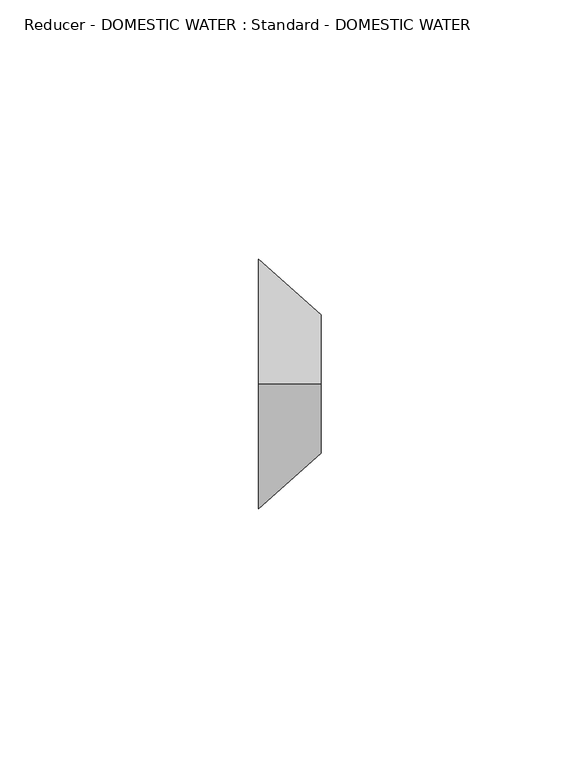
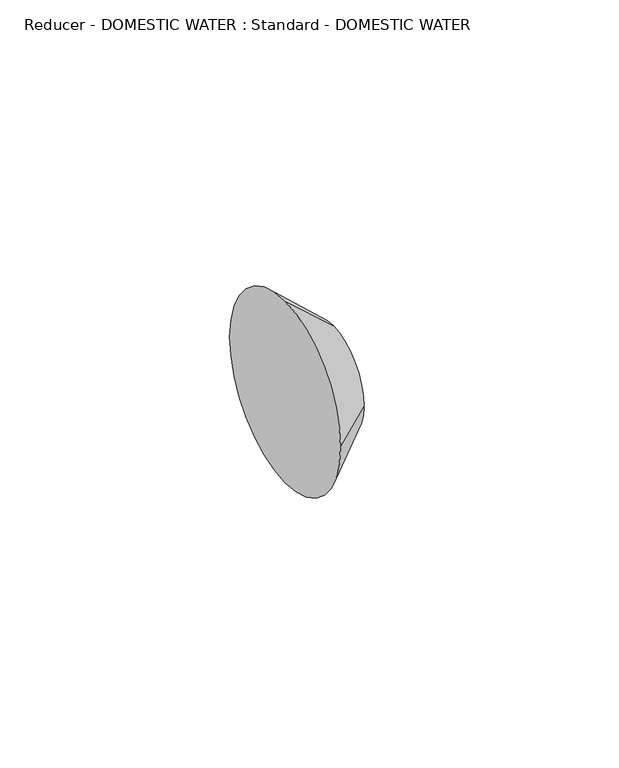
"""IFC4 building model written with IfcOpenShell, lengths in millimetres: pipe fitting geometry, Reducer - DOMESTIC WATER : Standard - DOMESTIC WATER."""

from ifc_helpers import new_model, si_unit, frame, origin, place, context, project, spatial, polyline, circle_curve, source, transform, mapped, element, save
from ifc_brep_helpers import plane_surface, revolved_surface, advanced_brep


def reducer_domestic_water_standard_domestic_water_e454aa41(model_context):
    return source(origin(), model_context, "Body", "AdvancedBrep", [
        advanced_brep(
        [(12.065, 0.0, 13.335), (12.065, -13.335, 0.0), (12.065, 0.0, -13.335), (12.065, 13.335, 0.0), (0.0, 0.0, 24.13), (0.0, 24.13, 0.0), (0.0, 0.0, -24.13), (0.0, -24.13, 0.0)],
        [
            (0, 1, circle_curve(frame((12.065, 0.0, 0.0), z_axis=(1.0, 0.0, 0.0), x_axis=(0.0, -1.0, 0.0)), 13.335)),
            (1, 2, circle_curve(frame((12.065, 0.0, 0.0), z_axis=(1.0, 0.0, 0.0), x_axis=(0.0, 0.0, -1.0)), 13.335)),
            (2, 3, circle_curve(frame((12.065, 0.0, 0.0), z_axis=(1.0, 0.0, 0.0), x_axis=(0.0, 1.0, 0.0)), 13.335)),
            (3, 0, circle_curve(frame((12.065, 0.0, 0.0), z_axis=(1.0, 0.0, 0.0), x_axis=(0.0, 0.0, 1.0)), 13.335)),
            (4, 5, circle_curve(frame((0.0, 0.0, 0.0), z_axis=(-1.0, 0.0, 0.0), x_axis=(0.0, 0.0, 1.0)), 24.13)),
            (5, 6, circle_curve(frame((0.0, 0.0, 0.0), z_axis=(-1.0, 0.0, 0.0), x_axis=(0.0, 1.0, 0.0)), 24.13)),
            (6, 7, circle_curve(frame((0.0, 0.0, 0.0), z_axis=(-1.0, 0.0, 0.0), x_axis=(0.0, 0.0, -1.0)), 24.13)),
            (7, 4, circle_curve(frame((0.0, 0.0, 0.0), z_axis=(-1.0, 0.0, 0.0), x_axis=(0.0, -1.0, 0.0)), 24.13)),
            (4, 0),
            (3, 5),
            (2, 6),
            (1, 7),
        ],
        [
            plane_surface(frame((12.065, 0.0, 0.0), z_axis=(1.0, 0.0, 0.0), x_axis=(0.0, 1.0, 0.0))),
            plane_surface(frame((0.0, 0.0, 0.0), z_axis=(-1.0, 0.0, 0.0), x_axis=(0.0, 1.0, 0.0))),
            revolved_surface(polyline([(12.065, 0.0, 13.334999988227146), (0.0, 0.0, 24.13)]), (26.9688235, 0.0, 0.0), (-1.0, 0.0, 0.0)),
            revolved_surface(polyline([(12.065, 13.334999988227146, 0.0), (0.0, 24.13, 0.0)]), (26.9688235, 0.0, 0.0), (-1.0, 0.0, 0.0)),
            revolved_surface(polyline([(12.065, 0.0, -13.334999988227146), (0.0, 0.0, -24.13)]), (26.9688235, 0.0, 0.0), (-1.0, 0.0, 0.0)),
            revolved_surface(polyline([(12.065, -13.334999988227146, 0.0), (0.0, -24.13, 0.0)]), (26.9688235, 0.0, 0.0), (-1.0, 0.0, 0.0)),
        ],
        [
            (0, [[1, 2, 3, 4]]),
            (1, [[5, 6, 7, 8]]),
            (2, [[9, -4, 10, -5]]),
            (3, [[-10, -3, 11, -6]]),
            (4, [[-11, -2, 12, -7]]),
            (5, [[-12, -1, -9, -8]]),
        ],
    ),
        advanced_brep(
        [(12.065, 0.0, 13.335), (12.065, -13.335, 0.0), (12.065, 0.0, -13.335), (12.065, 13.335, 0.0), (0.0, 0.0, 24.13), (0.0, 24.13, 0.0), (0.0, 0.0, -24.13), (0.0, -24.13, 0.0)],
        [
            (0, 1, circle_curve(frame((12.065, 0.0, 0.0), z_axis=(1.0, 0.0, 0.0), x_axis=(0.0, -1.0, 0.0)), 13.335)),
            (1, 2, circle_curve(frame((12.065, 0.0, 0.0), z_axis=(1.0, 0.0, -1.039076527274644e-12), x_axis=(-1.039135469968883e-12, 0.0, -1.0)), 13.335)),
            (2, 3, circle_curve(frame((12.065, 0.0, 0.0), z_axis=(1.0, 0.0, 0.0), x_axis=(0.0, 1.0, 0.0)), 13.335)),
            (3, 0, circle_curve(frame((12.065, 0.0, 0.0), z_axis=(1.0, 0.0, 0.0), x_axis=(0.0, 0.0, 1.0)), 13.335)),
            (4, 5, circle_curve(frame((0.0, 0.0, 0.0), z_axis=(-1.0, 0.0, 0.0), x_axis=(0.0, 0.0, 1.0)), 24.13)),
            (5, 6, circle_curve(frame((0.0, 0.0, 0.0), z_axis=(-1.0, 0.0, 0.0), x_axis=(0.0, 1.0, 0.0)), 24.13)),
            (6, 7, circle_curve(frame((0.0, 0.0, 0.0), z_axis=(-1.0, 0.0, 1.039076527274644e-12), x_axis=(-1.039135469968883e-12, 0.0, -1.0)), 24.13)),
            (7, 4, circle_curve(frame((0.0, 0.0, 0.0), z_axis=(-1.0, 0.0, 0.0), x_axis=(0.0, -1.0, 0.0)), 24.13)),
            (4, 0),
            (3, 5),
            (2, 6),
            (1, 7),
        ],
        [
            plane_surface(frame((12.065, 0.0, 0.0), z_axis=(1.0, 0.0, 0.0), x_axis=(0.0, 1.0, 0.0))),
            plane_surface(frame((0.0, 0.0, 0.0), z_axis=(-1.0, 0.0, 0.0), x_axis=(0.0, 1.0, 0.0))),
            revolved_surface(polyline([(12.065, 0.0, 13.334999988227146), (0.0, 0.0, 24.13)]), (26.9688235, 0.0, 0.0), (-1.0, 0.0, 0.0)),
            revolved_surface(polyline([(12.065, 13.334999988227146, 0.0), (0.0, 24.13, 0.0)]), (26.9688235, 0.0, 0.0), (-1.0, 0.0, 0.0)),
            revolved_surface(polyline([(12.065, 0.0, -13.334999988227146), (-2.5071500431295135e-11, 0.0, -24.130000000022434)]), (26.9688235, 0.0, 0.0), (-1.0, 0.0, 1.039076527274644e-12)),
            revolved_surface(polyline([(12.065, -13.334999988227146, 0.0), (0.0, -24.13, 0.0)]), (26.9688235, 0.0, 0.0), (-1.0, 0.0, 0.0)),
        ],
        [
            (0, [[1, 2, 3, 4]]),
            (1, [[5, 6, 7, 8]]),
            (2, [[9, -4, 10, -5]]),
            (3, [[-10, -3, 11, -6]]),
            (4, [[-11, -2, 12, -7]]),
            (5, [[-12, -1, -9, -8]]),
        ],
    ),
    ])


if __name__ == "__main__":
    model = new_model("IFC4")
    model_context = context("Model", 3, world=origin())
    ifc_project = project(units=[si_unit("LENGTHUNIT", "METRE", prefix="MILLI")], contexts=[model_context])
    site = spatial("IfcSite", under=ifc_project)
    building = spatial("IfcBuilding", under=site)
    placement = place(None, origin())
    reducer_domestic_water_standard_domestic_water_shape = reducer_domestic_water_standard_domestic_water_e454aa41(model_context)
    element("IfcPipeFitting", 1, ObjectType="Reducer - DOMESTIC WATER : Standard - DOMESTIC WATER", at=placement, inside=building, context=model_context, shape_type="MappedRepresentation", body=[
        mapped(reducer_domestic_water_standard_domestic_water_shape, transform((0.0, 0.0, 0.0), x_axis=(1.0, 0.0, 0.0), y_axis=(0.0, 1.0, 0.0), z_axis=(0.0, 0.0, 1.0))),
    ])
    save(model, "model.ifc")
